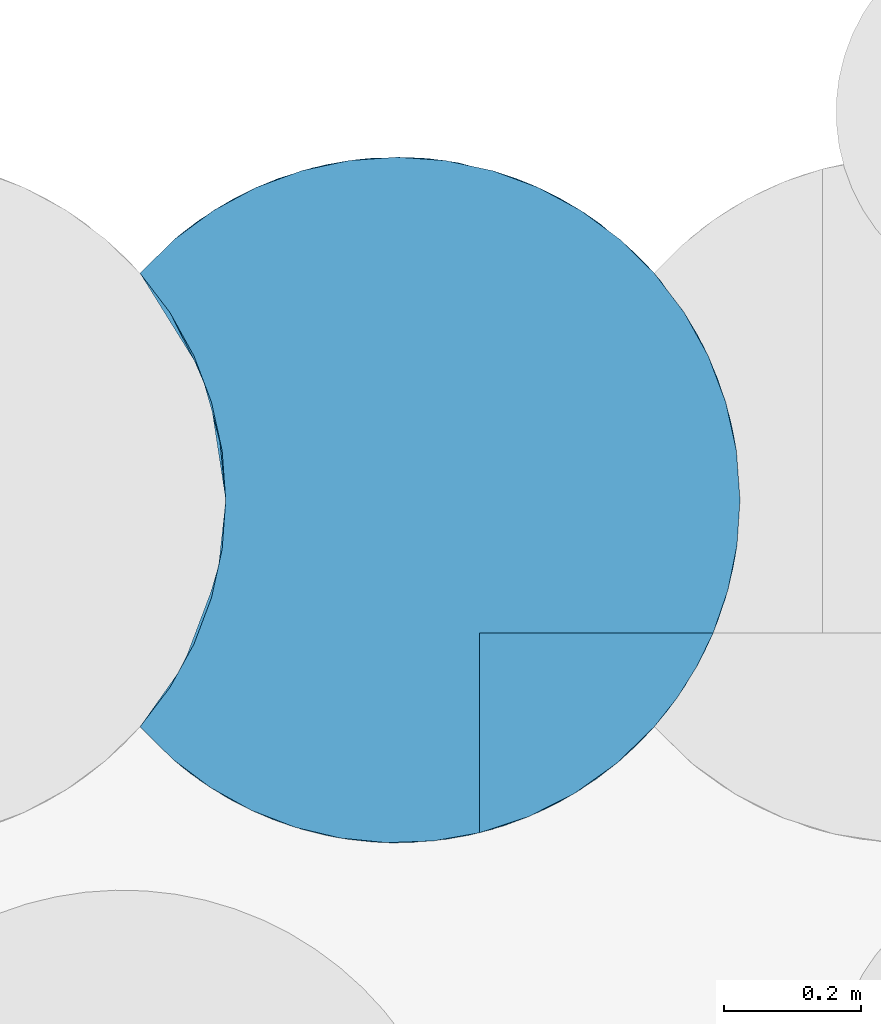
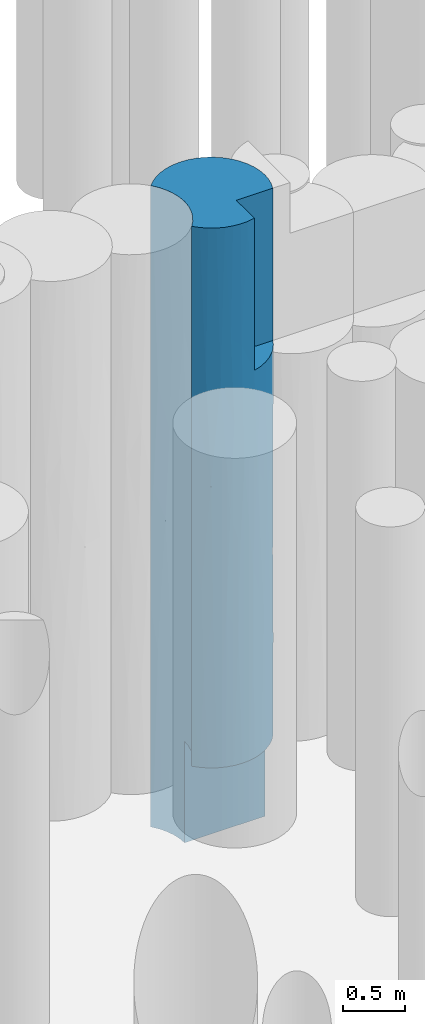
# One storey, part 89 of 104: 1 pile.
"""IFC2X3 building model written with IfcOpenShell, lengths in millimetres."""

from ifc_helpers import new_model, entity, si_unit, converted_unit, derived_unit, direction, frame, origin, place, context, subcontext, project, spatial, faceted_brep, source, transform, mapped, material, element, save


model = new_model("IFC2X3")

# Units and contexts
model_context = context("Model", 3, precision=0.01, world=origin(), true_north=direction((6.12303176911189e-17, 1.0)))
body_context = subcontext(model_context, "Body", "Model", "MODEL_VIEW")
ifc_project = project(units=[si_unit("LENGTHUNIT", "METRE", prefix="MILLI"), si_unit("AREAUNIT", "SQUARE_METRE", prefix="MILLI"), si_unit("VOLUMEUNIT", "CUBIC_METRE"), converted_unit("PLANEANGLEUNIT", "DEGREE", entity("IfcRatioMeasure", 0.0174532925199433), si_unit("PLANEANGLEUNIT", "RADIAN"), dimensions=[0, 0, 0, 0, 0, 0, 0]), si_unit("MASSUNIT", "GRAM", prefix="KILO"), derived_unit("MASSDENSITYUNIT", [(si_unit("MASSUNIT", "GRAM", prefix="KILO"), 1), (si_unit("LENGTHUNIT", "METRE"), -3)]), derived_unit("MOMENTOFINERTIAUNIT", [(si_unit("LENGTHUNIT", "METRE"), 4)]), si_unit("TIMEUNIT", "SECOND"), si_unit("FREQUENCYUNIT", "HERTZ"), si_unit("THERMODYNAMICTEMPERATUREUNIT", "DEGREE_CELSIUS"), derived_unit("THERMALTRANSMITTANCEUNIT", [(si_unit("MASSUNIT", "GRAM", prefix="KILO"), 1), (si_unit("THERMODYNAMICTEMPERATUREUNIT", "KELVIN"), -1), (si_unit("TIMEUNIT", "SECOND"), -3)]), derived_unit("VOLUMETRICFLOWRATEUNIT", [(si_unit("LENGTHUNIT", "METRE"), 3), (si_unit("TIMEUNIT", "SECOND"), -1)]), si_unit("ELECTRICCURRENTUNIT", "AMPERE"), si_unit("ELECTRICVOLTAGEUNIT", "VOLT"), si_unit("POWERUNIT", "WATT"), si_unit("FORCEUNIT", "NEWTON", prefix="KILO"), si_unit("ILLUMINANCEUNIT", "LUX"), si_unit("LUMINOUSFLUXUNIT", "LUMEN"), si_unit("LUMINOUSINTENSITYUNIT", "CANDELA"), derived_unit("USERDEFINED", [(si_unit("MASSUNIT", "GRAM", prefix="KILO"), -1), (si_unit("LENGTHUNIT", "METRE"), -2), (si_unit("TIMEUNIT", "SECOND"), 3), (si_unit("LUMINOUSFLUXUNIT", "LUMEN"), 1)]), derived_unit("LINEARVELOCITYUNIT", [(si_unit("LENGTHUNIT", "METRE"), 1), (si_unit("TIMEUNIT", "SECOND"), -1)]), si_unit("PRESSUREUNIT", "PASCAL"), derived_unit("USERDEFINED", [(si_unit("LENGTHUNIT", "METRE"), -2), (si_unit("MASSUNIT", "GRAM", prefix="KILO"), 1), (si_unit("TIMEUNIT", "SECOND"), -2)]), derived_unit("LINEARFORCEUNIT", [(si_unit("MASSUNIT", "GRAM", prefix="KILO"), 1), (si_unit("LENGTHUNIT", "METRE"), 1), (si_unit("TIMEUNIT", "SECOND"), -2), (si_unit("LENGTHUNIT", "METRE"), -1)]), derived_unit("PLANARFORCEUNIT", [(si_unit("MASSUNIT", "GRAM", prefix="KILO"), 1), (si_unit("LENGTHUNIT", "METRE"), 1), (si_unit("TIMEUNIT", "SECOND"), -2), (si_unit("LENGTHUNIT", "METRE"), -2)])], contexts=[model_context])

# Site, building, storey
site_placement = place(None, origin())
site = spatial("IfcSite", under=ifc_project, at=site_placement, Name="Theater aan de Parade", CompositionType="ELEMENT")
building_placement = place(site_placement, origin())
building = spatial("IfcBuilding", under=site, at=building_placement, Name="Theater aan de Parade", CompositionType="ELEMENT")
storey_placement = place(building_placement, frame((0.0, 0.0, -5520.0)))
storey = spatial("IfcBuildingStorey", under=building, at=storey_placement, Name="-2 kelder", CompositionType="ELEMENT", Elevation=-5520.0)

# Pile
ifc_material = material(Name="00_PBT_MAT_grout")
shared_shape = source(origin(), body_context, "Body", "Brep", [
    faceted_brep([(447.024567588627, 996.61013494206, 0.0), (516.050365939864, 981.753867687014, 0.0), (582.295809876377, 957.322480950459, 0.0), (644.44026184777, 923.802640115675, 0.0), (701.244632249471, 881.862011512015, 0.0), (751.564698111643, 832.344511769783, 0.0), (795.307447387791, 774.871898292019, 0.0), (830.306104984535, 711.705910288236, 0.0), (855.841245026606, 644.155075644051, 0.0), (871.379164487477, 573.629291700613, 0.0), (876.595272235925, 501.595272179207, 0.0), (126.595272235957, 501.595272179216, 0.0), (121.380912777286, 573.617282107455, 0.0), (105.84659257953, 644.137097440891, 0.0), (80.3163177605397, 711.683855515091, 0.0), (45.32258444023, 774.848704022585, 0.0), (1.59527223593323, 832.314186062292, 0.0), (51.9353252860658, 881.852972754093, 0.0), (108.741467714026, 923.797047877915, 0.0), (170.888616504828, 957.319719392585, 0.0), (237.13633146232, 981.752750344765, 0.0), (306.163620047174, 996.609799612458, 0.0), (376.59435299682, 1001.59527217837, 0.0), (794.756123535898, 775.714776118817, 1228.81272915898), (549.604882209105, 970.70898425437, 4489.81932615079), (520.05179346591, 980.573587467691, 5382.91341902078), (613.960467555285, 941.660908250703, 5318.51941458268), (876.595272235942, 501.595272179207, 1000.0), (876.595272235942, 501.595272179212, 6320.0), (876.59527223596, 501.595272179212, 4758.46227378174), (871.379164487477, 573.6292917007, 6320.0), (520.051793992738, 980.573587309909, 937.086578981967), (844.29483265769, 678.392108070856, 1164.36332466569), (271.387390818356, 990.401268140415, 1001.48399115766), (613.960468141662, 941.660907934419, 1001.48058281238), (465.503122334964, 993.627175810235, 3572.95728768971), (591.95749686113, 952.837016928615, 2592.25031757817), (425.191522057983, 999.228073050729, 2413.69991540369), (51.9353254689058, 881.852972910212, 6320.0), (108.741467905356, 923.7970479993, 6320.0), (62.3331531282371, 890.490271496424, 5148.84671821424), (727.290636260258, 857.983770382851, 1464.86322289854), (813.948631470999, 743.921579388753, 2176.75510940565), (411.897565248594, 1000.34746326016, 1347.03164863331), (170.41967066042, 957.10775424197, 3160.0), (89.8360826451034, 911.191618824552, 2088.29114741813), (79.5245862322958, 903.775589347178, 3056.90562258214), (844.294831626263, 678.392110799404, 4334.7168672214), (813.948631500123, 743.92157933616, 5244.04250825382), (856.70146931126, 641.230652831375, 5294.90075363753), (317.324708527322, 998.0698438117, 2005.67899400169), (139.222527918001, 941.656836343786, 5318.51289021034), (271.387391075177, 990.401268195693, 5318.5160089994), (203.580632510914, 970.707129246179, 4489.8213672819), (855.841245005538, 644.155075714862, 6320.0), (830.30610490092, 711.705910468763, 6320.0), (411.897565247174, 1000.34746326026, 4972.96835150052), (376.594352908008, 1001.59527217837, 6320.0), (447.024567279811, 996.610134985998, 6320.0), (876.595272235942, 501.595272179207, 2098.46227378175), (869.333230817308, 586.502893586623, 1549.23112851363), (646.439422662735, 922.527730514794, 4378.31323819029), (861.144910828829, 624.9307810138, 2647.6933898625), (139.222527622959, 941.656836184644, 1001.48711016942), (795.307447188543, 774.871898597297, 6320.0), (576.321270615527, 959.97232829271, 3449.19162586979), (751.585178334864, 832.325631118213, 6320.0), (727.290636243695, 857.983770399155, 5537.32646657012), (701.244631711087, 881.862011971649, 6320.0), (203.580632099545, 970.707129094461, 1830.17863376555), (644.440261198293, 923.802640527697, 6320.0), (341.290873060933, 1000.34731417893, 3160.0), (253.934917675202, 986.316261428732, 2717.65300360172), (650.019734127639, 920.2109236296, 1972.39054739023), (549.604882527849, 970.708984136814, 1830.18066998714), (62.3331529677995, 890.490271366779, 1171.15328050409), (876.595272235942, 501.595272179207, 3196.92454756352), (876.595272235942, 501.595272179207, 2561.5377059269), (793.001015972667, 778.373624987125, 4276.18344993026), (864.687323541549, 610.067155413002, 3612.80310461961), (727.290635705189, 857.983770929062, 4689.95415944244), (1.59527223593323, 832.314186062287, 5539.23003355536), (1.59527223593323, 832.314186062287, 4758.46006711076), (1.59527223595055, 832.314186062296, 780.769966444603), (1.59527223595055, 832.314186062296, 1561.53474018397), (582.295809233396, 957.32248124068, 6320.0), (516.050365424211, 981.753867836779, 6320.0), (1.59527223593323, 832.314186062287, 6320.0), (170.888616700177, 957.319719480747, 6320.0), (760.967406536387, 821.373417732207, 2912.00306888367), (306.16362012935, 996.609799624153, 6320.0), (237.13633163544, 981.752750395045, 6320.0), (317.32470884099, 998.069843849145, 4314.3210059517), (824.270181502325, 724.277053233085, 3295.17429052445), (740.36206313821, 844.631307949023, 3786.33735840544), (89.8360828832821, 911.191618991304, 4231.70885066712), (1.59527223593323, 832.314186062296, 2342.30678423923), (1.59527223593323, 832.314186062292, 3123.07467307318), (1.59527223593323, 832.314186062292, 3940.76996644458), (1.59527223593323, 832.314186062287, 4721.53776053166), (868.318681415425, 592.193775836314, 4573.56444361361), (673.583725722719, 903.836317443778, 3160.0), (876.595272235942, 501.595272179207, 3660.0), (1.59527223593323, 832.314186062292, 3922.30692768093), (238.558376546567, 21.0270507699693, 2528.85940107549), (170.888936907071, 45.8706803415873, 1000.0), (237.139379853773, 21.4369086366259, 1000.0), (398.333425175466, 2.06804298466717, 3942.72571627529), (271.391827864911, 12.7883212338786, 3466.55670014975), (358.868535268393, 1.90960818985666, 3152.09388221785), (667.495576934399, 94.9295461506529, 3548.97629729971), (727.301618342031, 145.217580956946, 2013.38039667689), (768.918045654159, 191.622948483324, 2910.0), (866.152700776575, 399.941329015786, 3129.18778671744), (826.272526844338, 282.98519307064, 3622.9692976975), (844.298622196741, 324.808461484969, 2323.87114157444), (306.169463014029, 6.57991343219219, 1000.0), (341.298032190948, 2.84272346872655, 2297.38513382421), (837.435053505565, 307.619253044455, 4820.0), (866.283093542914, 400.571326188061, 4209.23114694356), (481.81147119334, 12.7910665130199, 1921.61618859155), (516.062532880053, 21.4402105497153, 1000.0), (582.308728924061, 45.8738948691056, 1000.0), (837.435053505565, 307.61925304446, 6320.0), (867.017838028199, 404.200678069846, 5221.3077538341), (859.058610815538, 370.335503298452, 6320.0), (635.901097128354, 74.0903141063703, 4820.0), (532.967689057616, 26.6766820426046, 3829.06882405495), (613.973379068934, 61.5366006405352, 2365.74081038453), (481.811471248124, 12.7910665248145, 2898.74760748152), (376.602802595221, 1.5952722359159, 1000.0), (429.527997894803, 4.40504042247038, 6320.0), (370.920712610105, 1.62747384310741, 5119.59435233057), (496.59527223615, 16.208828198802, 4820.0), (447.035194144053, 6.58192144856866, 1000.0), (50.0288588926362, 122.973590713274, 6320.0), (1.59527223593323, 170.876358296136, 6320.0), (1.59527223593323, 170.876358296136, 4758.45916272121), (76.4874870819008, 101.676133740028, 1901.00123257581), (1.59527223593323, 170.87635829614, 1780.77944645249), (51.931544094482, 121.340799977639, 1000.0), (61.8709682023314, 113.074214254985, 2765.49150754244), (139.221565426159, 61.5342271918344, 2553.83189545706), (125.263678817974, 69.3541008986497, 3793.70909438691), (90.27990444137, 91.688563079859, 4822.14647203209), (195.339994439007, 35.6054393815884, 4816.98557237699), (697.423215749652, 118.098947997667, 4820.0), (227.492094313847, 24.344559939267, 6320.0), (164.029328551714, 49.0295647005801, 6320.0), (305.149005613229, 6.72616727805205, 4374.3250581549), (276.907313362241, 11.6337319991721, 5208.24747980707), (361.482316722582, 1.82372579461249, 6320.0), (496.59527223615, 16.208828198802, 6320.0), (869.741717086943, 419.093248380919, 1963.43906953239), (1.59527223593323, 170.87635829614, 3196.91832544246), (104.50634579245, 82.1103307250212, 6320.0), (1.59527223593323, 170.87635829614, 1000.0), (751.595272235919, 170.876358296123, 1000.0), (701.256460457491, 121.338631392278, 1000.0), (768.918045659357, 191.622948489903, 3881.14976663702), (644.453065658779, 79.3960271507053, 1000.0), (796.191369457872, 229.677793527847, 2003.42705976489), (795.315189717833, 228.330509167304, 1000.0), (108.739323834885, 79.3948566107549, 1000.0), (855.843884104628, 359.044340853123, 1000.0), (871.38000584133, 429.567031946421, 1000.0), (830.31122192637, 291.495683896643, 1000.0), (751.595272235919, 170.876358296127, 4820.0), (568.444074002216, 39.8658738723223, 4820.0), (785.094452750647, 213.27527717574, 4820.0), (813.794354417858, 258.990732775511, 4820.0), (872.190612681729, 435.373987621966, 6320.0), (293.718660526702, 8.51164110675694, 6320.0), (121.380912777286, 573.617282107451, 6320.0), (126.595272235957, 501.595272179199, 6320.0), (121.380912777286, 429.573262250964, 6320.0), (105.84659257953, 359.053446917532, 6320.0), (80.3163177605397, 291.506688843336, 6320.0), (45.32258444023, 228.341840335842, 6320.0), (496.595272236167, 307.61925304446, 6320.0), (45.32258444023, 774.848704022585, 6320.0), (80.3163177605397, 711.683855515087, 6320.0), (105.84659257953, 644.137097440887, 6320.0), (126.595272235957, 501.595272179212, 1000.0), (126.595272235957, 501.595272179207, 4758.46227344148), (126.595272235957, 501.595272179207, 5539.23114702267), (103.7169893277, 651.110713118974, 929.57030215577), (117.506504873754, 596.49607128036, 2931.36424013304), (119.581500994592, 585.049320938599, 1600.95905710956), (126.595272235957, 501.595272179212, 2098.46227344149), (63.961232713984, 743.898835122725, 1002.25156593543), (57.0342575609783, 756.001010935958, 3976.06843691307), (59.0094113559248, 752.629158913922, 4844.99935350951), (94.3024450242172, 678.371968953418, 5355.1793706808), (52.6084708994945, 763.344683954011, 1951.92213360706), (94.3024450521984, 678.371968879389, 1823.06883573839), (89.4529642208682, 690.705708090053, 3078.94407721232), (119.451546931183, 585.813396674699, 3842.56157073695), (94.3024444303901, 678.371970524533, 4334.81933337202), (116.89944132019, 599.584158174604, 4844.99935891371), (126.595272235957, 501.595272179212, 3196.92454688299), (126.595272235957, 501.595272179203, 4123.07541190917), (126.595272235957, 501.595272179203, 2561.53770595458), (114.888484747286, 394.032552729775, 5404.38906559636), (63.9612331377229, 259.291710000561, 5404.38906552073), (52.4390141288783, 239.570259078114, 2802.0358188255), (63.9612331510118, 259.291710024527, 1947.59403560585), (94.3024456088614, 324.818576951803, 2700.69910324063), (114.888484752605, 394.03255275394, 1947.59403553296), (80.3163177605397, 291.506688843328, 1000.0), (45.32258444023, 228.341840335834, 1000.0), (119.3271978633, 416.652647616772, 4541.19743988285), (86.83264653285, 306.194250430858, 3696.32218371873), (117.809113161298, 408.273450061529, 3449.75323103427), (105.84659257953, 359.053446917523, 1000.0), (121.380912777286, 429.573262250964, 1000.0), (94.3024455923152, 324.818576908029, 4691.94526432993), (54.038410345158, 242.187555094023, 4333.70688615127), (496.595272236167, 307.61925304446, 6290.0), (496.595272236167, 307.61925304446, 4820.0)], [[[0, 1, 2, 3, 4, 5, 6, 7, 8, 9, 10, 11, 12, 13, 14, 15, 16, 17, 18, 19, 20, 21, 22]], [[7, 6, 23]], [[24, 25, 26]], [[10, 9, 27]], [[28, 29, 30]], [[1, 31, 2]], [[32, 9, 8]], [[19, 33, 20]], [[3, 2, 34]], [[35, 36, 37]], [[38, 39, 40]], [[41, 42, 23]], [[23, 42, 32]], [[41, 5, 4]], [[31, 34, 2]], [[31, 0, 43]], [[44, 45, 46]], [[5, 41, 23]], [[8, 7, 32]], [[47, 48, 49]], [[50, 43, 33]], [[51, 52, 53]], [[54, 49, 55]], [[56, 57, 58]], [[59, 27, 60]], [[24, 26, 61]], [[55, 49, 48]], [[62, 32, 42]], [[63, 19, 18]], [[48, 64, 55]], [[65, 36, 35]], [[66, 67, 68]], [[33, 63, 69]], [[67, 26, 70]], [[71, 50, 72]], [[34, 73, 41]], [[73, 34, 74]], [[74, 34, 31]], [[67, 70, 68]], [[20, 33, 21]], [[4, 34, 41]], [[75, 18, 17]], [[62, 76, 77, 59]], [[29, 49, 30]], [[78, 48, 47]], [[32, 60, 9]], [[4, 3, 34]], [[63, 33, 19]], [[76, 62, 79]], [[48, 80, 67]], [[81, 40, 82]], [[75, 83, 84]], [[67, 64, 48]], [[26, 85, 70]], [[85, 26, 25]], [[85, 25, 86]], [[87, 38, 81]], [[17, 16, 83]], [[88, 51, 39]], [[25, 58, 86]], [[80, 48, 78]], [[41, 73, 89]], [[52, 57, 56]], [[90, 52, 91]], [[69, 63, 45]], [[35, 56, 24]], [[37, 43, 50]], [[52, 88, 91]], [[22, 21, 33]], [[51, 88, 52]], [[52, 92, 53]], [[22, 43, 0]], [[61, 26, 80]], [[93, 94, 78]], [[50, 33, 69]], [[22, 33, 43]], [[75, 17, 83]], [[75, 45, 63]], [[57, 52, 90]], [[92, 52, 56]], [[95, 51, 53]], [[40, 39, 51]], [[67, 66, 64]], [[26, 67, 80]], [[45, 84, 96, 97]], [[95, 98, 99, 82]], [[45, 97, 46]], [[95, 53, 44]], [[46, 98, 95]], [[44, 53, 92]], [[45, 44, 69]], [[47, 100, 79]], [[62, 59, 60]], [[62, 42, 93]], [[72, 69, 44]], [[37, 50, 71]], [[35, 92, 56]], [[92, 71, 72]], [[36, 73, 74]], [[89, 73, 101]], [[35, 37, 71]], [[74, 43, 37]], [[35, 71, 92]], [[35, 24, 65]], [[94, 61, 80]], [[65, 61, 101]], [[47, 93, 78]], [[89, 94, 93]], [[93, 47, 79]], [[89, 93, 42]], [[41, 89, 42]], [[94, 80, 78]], [[30, 49, 54]], [[100, 47, 49]], [[0, 31, 1]], [[43, 74, 31]], [[24, 56, 25]], [[58, 25, 56]], [[89, 101, 94]], [[61, 94, 101]], [[61, 65, 24]], [[101, 73, 36]], [[9, 60, 27]], [[62, 60, 32]], [[7, 23, 32]], [[5, 23, 6]], [[49, 29, 100]], [[79, 29, 102, 76]], [[79, 100, 29]], [[93, 79, 62]], [[37, 36, 74]], [[101, 36, 65]], [[45, 75, 84]], [[75, 63, 18]], [[40, 95, 82]], [[38, 40, 81]], [[95, 40, 51]], [[95, 44, 46]], [[46, 97, 103, 98]], [[69, 72, 50]], [[92, 72, 44]], [[104, 105, 106]], [[107, 108, 109]], [[110, 111, 112]], [[113, 114, 115]], [[104, 116, 117]], [[118, 114, 119]], [[104, 117, 109]], [[120, 121, 122]], [[123, 124, 125]], [[126, 127, 110]], [[128, 127, 129]], [[130, 120, 117]], [[117, 116, 130]], [[117, 120, 129]], [[131, 132, 133]], [[120, 134, 121]], [[135, 136, 137]], [[138, 139, 140]], [[141, 142, 143]], [[144, 135, 137]], [[108, 145, 143]], [[29, 119, 102]], [[126, 110, 146]], [[147, 148, 145]], [[145, 149, 150]], [[143, 144, 137]], [[131, 151, 132]], [[131, 133, 152]], [[153, 27, 59, 77]], [[154, 141, 143]], [[106, 116, 104]], [[144, 148, 155]], [[147, 145, 150]], [[139, 156, 140]], [[133, 107, 127]], [[114, 113, 119]], [[157, 111, 158]], [[159, 146, 110]], [[110, 127, 128]], [[128, 122, 160]], [[138, 141, 139]], [[129, 120, 128]], [[161, 157, 162]], [[163, 105, 138]], [[113, 102, 119]], [[153, 164, 165]], [[115, 166, 164]], [[114, 159, 112]], [[146, 159, 167]], [[115, 164, 153]], [[166, 115, 161]], [[113, 77, 76, 102]], [[110, 128, 111]], [[112, 115, 114]], [[127, 107, 129]], [[133, 127, 168]], [[127, 126, 168]], [[159, 169, 167]], [[107, 132, 149]], [[107, 133, 132]], [[170, 159, 114]], [[122, 128, 120]], [[114, 118, 170]], [[118, 124, 123]], [[124, 119, 29]], [[111, 160, 158]], [[120, 130, 134]], [[159, 110, 112]], [[119, 124, 118]], [[28, 171, 124]], [[159, 170, 169]], [[138, 105, 142]], [[109, 129, 107]], [[157, 161, 111]], [[160, 111, 128]], [[161, 112, 111]], [[113, 115, 153]], [[166, 161, 162]], [[115, 112, 161]], [[150, 151, 172]], [[107, 149, 108]], [[28, 124, 29]], [[125, 124, 171]], [[163, 138, 140]], [[141, 138, 142]], [[142, 108, 143]], [[139, 141, 154]], [[144, 143, 145]], [[154, 143, 137]], [[148, 144, 145]], [[135, 144, 155]], [[150, 149, 132]], [[145, 108, 149]], [[151, 150, 132]], [[147, 150, 172]], [[108, 142, 104]], [[104, 142, 105]], [[27, 153, 165]], [[113, 153, 77]], [[104, 109, 108]], [[129, 109, 117]], [[173, 174, 175, 176, 177, 178, 136, 135, 155, 148, 147, 172, 151, 131, 152, 179, 123, 125, 171, 28, 30, 54, 55, 64, 66, 68, 70, 85, 86, 58, 57, 90, 91, 88, 39, 38, 87, 180, 181, 182]], [[183, 12, 11]], [[173, 184, 185, 174]], [[14, 13, 186]], [[187, 188, 189]], [[15, 190, 16]], [[99, 191, 192]], [[193, 182, 181]], [[14, 190, 15]], [[186, 13, 12]], [[194, 195, 196]], [[197, 198, 196]], [[181, 180, 193]], [[192, 193, 180]], [[184, 173, 199]], [[186, 190, 14]], [[195, 190, 186]], [[197, 199, 198]], [[199, 193, 198]], [[200, 197, 187]], [[190, 84, 83, 16]], [[173, 182, 193]], [[180, 87, 81, 82, 99]], [[198, 193, 192]], [[97, 96, 84, 194]], [[193, 199, 173]], [[197, 200, 201, 184]], [[199, 197, 184]], [[196, 187, 197]], [[198, 192, 191]], [[183, 188, 186]], [[187, 196, 195]], [[187, 189, 202, 200]], [[191, 99, 98, 103, 97]], [[99, 192, 180]], [[191, 196, 198]], [[196, 191, 97]], [[195, 186, 188]], [[183, 186, 12]], [[195, 188, 187]], [[189, 188, 183]], [[84, 190, 194]], [[97, 194, 196]], [[195, 194, 190]], [[176, 203, 204, 177]], [[175, 174, 185]], [[139, 205, 206]], [[207, 208, 206]], [[209, 210, 206]], [[211, 203, 185]], [[204, 137, 136]], [[207, 212, 213]], [[202, 208, 213]], [[176, 175, 203]], [[209, 206, 208, 214]], [[215, 208, 183]], [[178, 177, 204]], [[214, 208, 215]], [[203, 216, 204]], [[213, 211, 201]], [[208, 202, 189, 183]], [[154, 217, 205]], [[213, 201, 200, 202]], [[139, 210, 156]], [[207, 206, 205]], [[206, 210, 139]], [[178, 204, 136]], [[137, 204, 217]], [[216, 203, 211]], [[203, 175, 185]], [[211, 213, 212]], [[211, 185, 184, 201]], [[216, 211, 212]], [[208, 207, 213]], [[216, 212, 217]], [[205, 217, 212]], [[216, 217, 204]], [[137, 217, 154]], [[207, 205, 212]], [[154, 205, 139]], [[157, 158, 160, 122, 121, 134, 130, 116, 106, 105, 163, 140, 156, 210, 209, 214, 215, 183, 27, 165, 164, 166, 162]], [[27, 183, 11, 10]], [[218, 179, 152, 133, 219]], [[218, 219, 118, 123, 179]], [[168, 126, 146, 167, 169, 170, 118, 219, 133]]]),
])
pile_placement = place(storey_placement, frame((80873.4047277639, 20202.3807469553, -3840.0)))
element("IfcPile", 1, at=pile_placement, inside=storey, material=ifc_material, Name="17_PBT_SFO_grondkering_rond:Ø1000 (grondkering)", ObjectType="17_PBT_SFO_grondkering_rond:Ø1000 (grondkering)", PredefinedType="NOTDEFINED", context=body_context, shape_type="MappedRepresentation", body=[
    mapped(shared_shape, transform((0.0, 0.0, 0.0), scale=1.0)),
])

save(model, "model.ifc")
